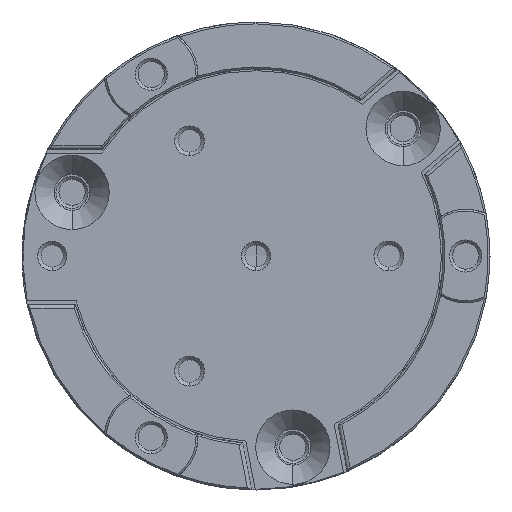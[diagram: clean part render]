
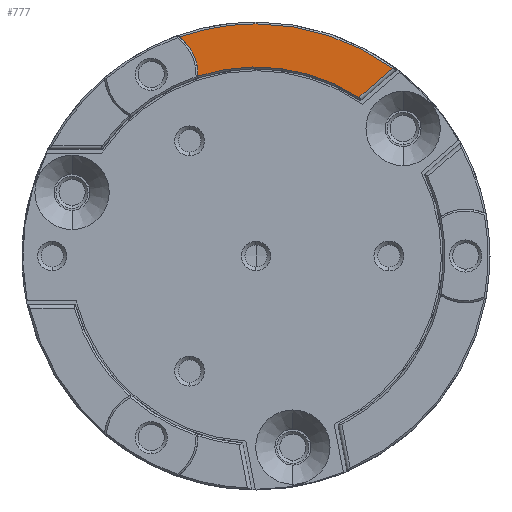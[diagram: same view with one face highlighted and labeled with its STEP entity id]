
A CAD part, front view. The second image highlights one B-rep face of the part: STEP entity #777.
In plain terms, the highlighted planar face has unit normal (0, -1, 0).
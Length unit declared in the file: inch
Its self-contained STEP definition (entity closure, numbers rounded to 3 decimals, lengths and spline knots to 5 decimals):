
#135 = EDGE_CURVE ( 'NONE', #136, #137, #1560, .T. ) ;
#136 = VERTEX_POINT ( 'NONE', #1552 ) ;
#137 = VERTEX_POINT ( 'NONE', #1551 ) ;
#643 = EDGE_CURVE ( 'NONE', #825, #136, #2848, .T. ) ;
#644 = ORIENTED_EDGE ( 'NONE', *, *, #135, .T. ) ;
#701 = ORIENTED_EDGE ( 'NONE', *, *, #732, .T. ) ;
#730 = VERTEX_POINT ( 'NONE', #3137 ) ;
#732 = EDGE_CURVE ( 'NONE', #137, #730, #3123, .T. ) ;
#775 = EDGE_CURVE ( 'NONE', #730, #828, #3165, .T. ) ;
#777 = ADVANCED_FACE ( 'NONE', ( #3160 ), #3159, .T. ) ;
#778 = EDGE_LOOP ( 'NONE', ( #779, #780, #781, #644, #701 ) ) ;
#779 = ORIENTED_EDGE ( 'NONE', *, *, #775, .T. ) ;
#780 = ORIENTED_EDGE ( 'NONE', *, *, #827, .T. ) ;
#781 = ORIENTED_EDGE ( 'NONE', *, *, #643, .T. ) ;
#825 = VERTEX_POINT ( 'NONE', #3050 ) ;
#827 = EDGE_CURVE ( 'NONE', #828, #825, #3043, .T. ) ;
#828 = VERTEX_POINT ( 'NONE', #3039 ) ;
#1551 = CARTESIAN_POINT ( 'NONE',  ( -0.39336, -0.0963, 0.62446 ) ) ;
#1552 = CARTESIAN_POINT ( 'NONE',  ( -0.18822, -0.0963, 0.65938 ) ) ;
#1553 = DIRECTION ( 'NONE',  ( 0., 0., -1. ) ) ;
#1554 = DIRECTION ( 'NONE',  ( 0., -1., 0. ) ) ;
#1555 = CARTESIAN_POINT ( 'NONE',  ( -0.18822, -0.0963, 0.03938 ) ) ;
#1556 = AXIS2_PLACEMENT_3D ( 'NONE', #1555, #1554, #1553 ) ;
#1560 = CIRCLE ( 'NONE', #1556, 0.62 ) ;
#2844 = DIRECTION ( 'NONE',  ( 0., 0., -1. ) ) ;
#2845 = DIRECTION ( 'NONE',  ( 0., -1., 0. ) ) ;
#2846 = CARTESIAN_POINT ( 'NONE',  ( -0.18822, -0.0963, 0.03938 ) ) ;
#2847 = AXIS2_PLACEMENT_3D ( 'NONE', #2846, #2845, #2844 ) ;
#2848 = CIRCLE ( 'NONE', #2847, 0.62 ) ;
#3039 = CARTESIAN_POINT ( 'NONE',  ( 0.08672, -0.0963, 0.46297 ) ) ;
#3040 = DIRECTION ( 'NONE',  ( 0.756, 0., 0.655 ) ) ;
#3041 = VECTOR ( 'NONE', #3040, 39.37008 ) ;
#3042 = CARTESIAN_POINT ( 'NONE',  ( 0.17817, -0.0963, 0.54223 ) ) ;
#3043 = LINE ( 'NONE', #3042, #3041 ) ;
#3050 = CARTESIAN_POINT ( 'NONE',  ( 0.17648, -0.0963, 0.54077 ) ) ;
#3120 = DIRECTION ( 'NONE',  ( 0., 0., -1. ) ) ;
#3121 = DIRECTION ( 'NONE',  ( 0., 1., 0. ) ) ;
#3122 = AXIS2_PLACEMENT_3D ( 'NONE', #3139, #3121, #3120 ) ;
#3123 = CIRCLE ( 'NONE', #3122, 0.125 ) ;
#3137 = CARTESIAN_POINT ( 'NONE',  ( -0.3433, -0.0963, 0.51998 ) ) ;
#3139 = CARTESIAN_POINT ( 'NONE',  ( -0.46822, -0.0963, 0.52435 ) ) ;
#3154 = DIRECTION ( 'NONE',  ( 0., 0., -1. ) ) ;
#3155 = DIRECTION ( 'NONE',  ( 0., -1., 0. ) ) ;
#3156 = CARTESIAN_POINT ( 'NONE',  ( -0.32822, -0.0963, 0.28187 ) ) ;
#3158 = AXIS2_PLACEMENT_3D ( 'NONE', #3156, #3155, #3154 ) ;
#3159 = PLANE ( 'NONE',  #3158 ) ;
#3160 = FACE_OUTER_BOUND ( 'NONE', #778, .T. ) ;
#3161 = DIRECTION ( 'NONE',  ( 0., 0., -1. ) ) ;
#3162 = DIRECTION ( 'NONE',  ( 0., 1., 0. ) ) ;
#3163 = CARTESIAN_POINT ( 'NONE',  ( -0.18822, -0.0963, 0.03938 ) ) ;
#3164 = AXIS2_PLACEMENT_3D ( 'NONE', #3163, #3162, #3161 ) ;
#3165 = CIRCLE ( 'NONE', #3164, 0.505 ) ;
